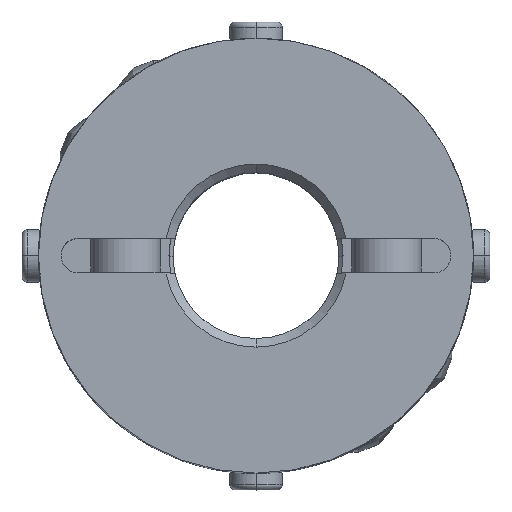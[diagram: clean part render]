
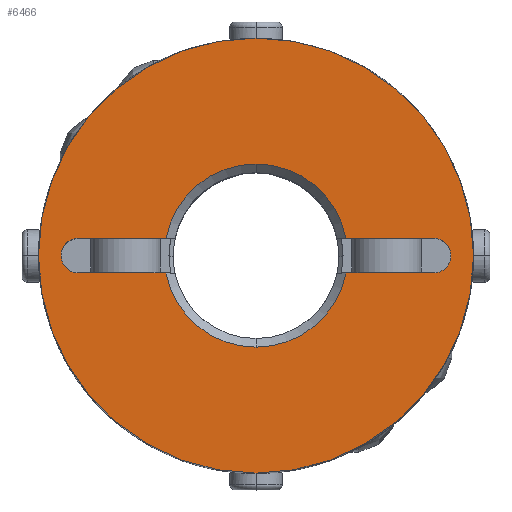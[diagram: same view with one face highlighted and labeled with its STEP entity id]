
A CAD part, top view. The second image highlights one B-rep face of the part: STEP entity #6466.
In plain terms, the highlighted planar face has unit normal (0, 0, 1).
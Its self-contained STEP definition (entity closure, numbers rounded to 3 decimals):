
#2656=CARTESIAN_POINT('',(0.,12.5,13.5));
#2657=VERTEX_POINT('',#2656);
#2664=CARTESIAN_POINT('',(0.,-12.5,13.5));
#2665=VERTEX_POINT('',#2664);
#2666=CARTESIAN_POINT('',(0.,0.0,13.5));
#2667=DIRECTION('',(0.0,0.0,-1.0));
#2668=DIRECTION('',(0.0,-1.0,0.0));
#2669=AXIS2_PLACEMENT_3D('',#2666,#2667,#2668);
#2670=CIRCLE('',#2669,12.5);
#2671=EDGE_CURVE('',#2657,#2665,#2670,.T.);
#2944=CARTESIAN_POINT('',(10.907,0.707,13.5));
#2945=VERTEX_POINT('',#2944);
#2961=CARTESIAN_POINT('',(10.2,-1.,13.5));
#2962=VERTEX_POINT('',#2961);
#2969=CARTESIAN_POINT('',(10.2,0.,13.5));
#2970=DIRECTION('',(0.0,0.0,1.0));
#2971=DIRECTION('',(0.707,-0.707,0.0));
#2972=AXIS2_PLACEMENT_3D('',#2969,#2970,#2971);
#2973=CIRCLE('',#2972,1.0);
#2974=EDGE_CURVE('',#2962,#2945,#2973,.T.);
#2986=CARTESIAN_POINT('',(-10.907,-0.707,13.5));
#2987=VERTEX_POINT('',#2986);
#3003=CARTESIAN_POINT('',(-10.2,1.,13.5));
#3004=VERTEX_POINT('',#3003);
#3011=CARTESIAN_POINT('',(-10.2,0.,13.5));
#3012=DIRECTION('',(0.0,0.0,1.0));
#3013=DIRECTION('',(-0.707,0.707,0.0));
#3014=AXIS2_PLACEMENT_3D('',#3011,#3012,#3013);
#3015=CIRCLE('',#3014,1.0);
#3016=EDGE_CURVE('',#3004,#2987,#3015,.T.);
#3026=CARTESIAN_POINT('',(0.,5.263,13.5));
#3027=VERTEX_POINT('',#3026);
#3035=CARTESIAN_POINT('',(5.167,1.,13.5));
#3036=VERTEX_POINT('',#3035);
#3050=CARTESIAN_POINT('',(0.,0.0,13.5));
#3051=DIRECTION('',(0.0,0.0,1.0));
#3052=DIRECTION('',(0.0,1.0,0.0));
#3053=AXIS2_PLACEMENT_3D('',#3050,#3051,#3052);
#3054=CIRCLE('',#3053,5.263);
#3055=EDGE_CURVE('',#3036,#3027,#3054,.T.);
#3067=CARTESIAN_POINT('',(0.,-5.263,13.5));
#3068=VERTEX_POINT('',#3067);
#3084=CARTESIAN_POINT('',(-5.167,-1.,13.5));
#3085=VERTEX_POINT('',#3084);
#3099=CARTESIAN_POINT('',(0.,0.0,13.5));
#3100=DIRECTION('',(0.0,0.0,1.0));
#3101=DIRECTION('',(0.0,-1.0,0.0));
#3102=AXIS2_PLACEMENT_3D('',#3099,#3100,#3101);
#3103=CIRCLE('',#3102,5.263);
#3104=EDGE_CURVE('',#3085,#3068,#3103,.T.);
#6258=CARTESIAN_POINT('',(-10.2,-1.,13.5));
#6259=VERTEX_POINT('',#6258);
#6266=CARTESIAN_POINT('',(-5.167,-1.,13.5));
#6267=DIRECTION('',(-1.0,0.0,0.0));
#6268=VECTOR('',#6267,5.033);
#6269=LINE('',#6266,#6268);
#6270=EDGE_CURVE('',#3085,#6259,#6269,.T.);
#6327=CARTESIAN_POINT('',(-5.167,1.,13.5));
#6328=VERTEX_POINT('',#6327);
#6342=CARTESIAN_POINT('',(-10.2,1.,13.5));
#6343=DIRECTION('',(1.0,0.0,0.0));
#6344=VECTOR('',#6343,5.033);
#6345=LINE('',#6342,#6344);
#6346=EDGE_CURVE('',#3004,#6328,#6345,.T.);
#6363=CARTESIAN_POINT('',(5.167,-1.,13.5));
#6364=VERTEX_POINT('',#6363);
#6365=CARTESIAN_POINT('',(0.,0.0,13.5));
#6366=DIRECTION('',(0.0,0.0,1.0));
#6367=DIRECTION('',(0.0,-1.0,0.0));
#6368=AXIS2_PLACEMENT_3D('',#6365,#6366,#6367);
#6369=CIRCLE('',#6368,5.263);
#6370=EDGE_CURVE('',#3068,#6364,#6369,.T.);
#6397=CARTESIAN_POINT('',(10.2,-1.,13.5));
#6398=DIRECTION('',(-1.0,0.0,0.0));
#6399=VECTOR('',#6398,5.033);
#6400=LINE('',#6397,#6399);
#6401=EDGE_CURVE('',#2962,#6364,#6400,.T.);
#6412=CARTESIAN_POINT('',(0.,-1.136,13.5));
#6413=DIRECTION('',(0.0,0.0,1.0));
#6414=DIRECTION('',(0.0,-1.0,0.0));
#6415=AXIS2_PLACEMENT_3D('',#6412,#6413,#6414);
#6416=PLANE('',#6415);
#6417=CARTESIAN_POINT('',(0.,0.0,13.5));
#6418=DIRECTION('',(0.0,0.0,-1.0));
#6419=DIRECTION('',(0.0,-1.0,0.0));
#6420=AXIS2_PLACEMENT_3D('',#6417,#6418,#6419);
#6421=CIRCLE('',#6420,12.5);
#6422=EDGE_CURVE('',#2665,#2657,#6421,.T.);
#6423=ORIENTED_EDGE('',*,*,#6422,.F.);
#6424=ORIENTED_EDGE('',*,*,#2671,.F.);
#6425=EDGE_LOOP('',(#6423,#6424));
#6426=FACE_OUTER_BOUND('',#6425,.T.);
#6427=ORIENTED_EDGE('',*,*,#3104,.F.);
#6428=ORIENTED_EDGE('',*,*,#6270,.T.);
#6429=CARTESIAN_POINT('',(-10.2,0.,13.5));
#6430=DIRECTION('',(0.0,0.0,1.0));
#6431=DIRECTION('',(-0.707,0.707,0.0));
#6432=AXIS2_PLACEMENT_3D('',#6429,#6430,#6431);
#6433=CIRCLE('',#6432,1.0);
#6434=EDGE_CURVE('',#2987,#6259,#6433,.T.);
#6435=ORIENTED_EDGE('',*,*,#6434,.F.);
#6436=ORIENTED_EDGE('',*,*,#3016,.F.);
#6437=ORIENTED_EDGE('',*,*,#6346,.T.);
#6438=CARTESIAN_POINT('',(0.,0.0,13.5));
#6439=DIRECTION('',(0.0,0.0,1.0));
#6440=DIRECTION('',(0.0,1.0,0.0));
#6441=AXIS2_PLACEMENT_3D('',#6438,#6439,#6440);
#6442=CIRCLE('',#6441,5.263);
#6443=EDGE_CURVE('',#3027,#6328,#6442,.T.);
#6444=ORIENTED_EDGE('',*,*,#6443,.F.);
#6445=ORIENTED_EDGE('',*,*,#3055,.F.);
#6446=CARTESIAN_POINT('',(10.2,1.,13.5));
#6447=VERTEX_POINT('',#6446);
#6448=CARTESIAN_POINT('',(5.167,1.,13.5));
#6449=DIRECTION('',(1.0,0.0,0.0));
#6450=VECTOR('',#6449,5.033);
#6451=LINE('',#6448,#6450);
#6452=EDGE_CURVE('',#3036,#6447,#6451,.T.);
#6453=ORIENTED_EDGE('',*,*,#6452,.T.);
#6454=CARTESIAN_POINT('',(10.2,0.,13.5));
#6455=DIRECTION('',(0.0,0.0,1.0));
#6456=DIRECTION('',(0.707,-0.707,0.0));
#6457=AXIS2_PLACEMENT_3D('',#6454,#6455,#6456);
#6458=CIRCLE('',#6457,1.0);
#6459=EDGE_CURVE('',#2945,#6447,#6458,.T.);
#6460=ORIENTED_EDGE('',*,*,#6459,.F.);
#6461=ORIENTED_EDGE('',*,*,#2974,.F.);
#6462=ORIENTED_EDGE('',*,*,#6401,.T.);
#6463=ORIENTED_EDGE('',*,*,#6370,.F.);
#6464=EDGE_LOOP('',(#6427,#6428,#6435,#6436,#6437,#6444,#6445,#6453,#6460,#6461,#6462,#6463));
#6465=FACE_BOUND('',#6464,.T.);
#6466=ADVANCED_FACE('',(#6426,#6465),#6416,.T.);
